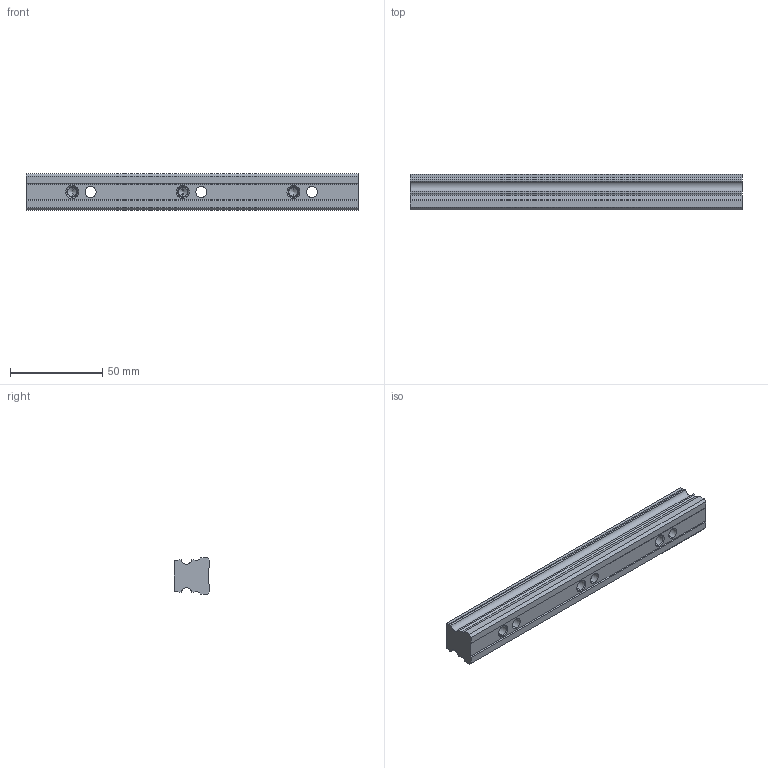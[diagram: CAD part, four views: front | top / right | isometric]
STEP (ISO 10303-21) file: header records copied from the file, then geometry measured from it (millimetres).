
FILE_DESCRIPTION (( 'STEP AP203' ), '1' );
FILE_NAME ('Default.step', '2023-08-06T09:04:02', ( '' ), ( '' ), 'SwSTEP 2.0', 'SolidWorks 2019', '' );
FILE_SCHEMA (( 'CONFIG_CONTROL_DESIGN' ));
Length unit declared in the file: millimetre
Products named in the file (1): Default
Bounding box: 180 x 19.3 x 20 mm (x, y, z)
Volume: 54538.5 mm3; surface area: 16975.7 mm2
Topology: 1 solids, 1 shells, 71 faces, 177 edges, 111 vertices
Faces by surface type: plane 32, cylinder 27, cone 12
Entity records: 2162 total; most frequent: DIRECTION 375, CARTESIAN_POINT 354, ORIENTED_EDGE 342, EDGE_CURVE 171, AXIS2_PLACEMENT_3D 132, LINE 111, VECTOR 111, VERTEX_POINT 111
